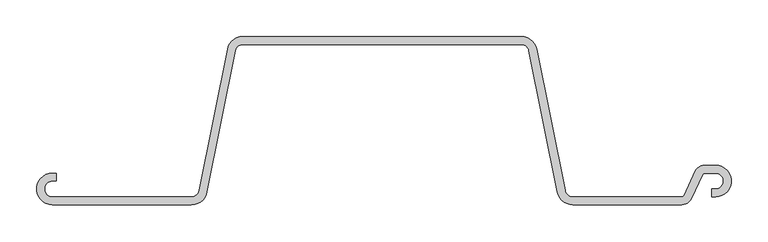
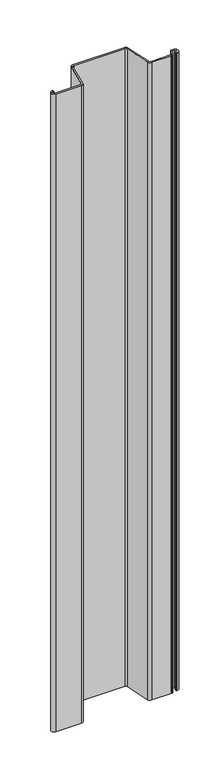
"""IFC4 building model written with IfcOpenShell, lengths in millimetres: proxy geometry, 鋼矢板10H型 : 鋼矢板10H型."""

from ifc_helpers import new_model, si_unit, point, frame, frame_2d, origin, place, context, project, spatial, polyline, circle_curve, trimmed, segment, composite_curve, outline, extrude, source, transform, mapped, element, save


def generic_models_6a52f8d3(model_context):
    return source(origin(), model_context, "Body", "SweptSolid", [
        extrude(outline(composite_curve([segment(trimmed(circle_curve(frame_2d((409.1972607, -101.1142857)), 13.8857143), [point((421.7819917, -106.9826421))], [point((409.1972607, -115.0))], False, "CARTESIAN"), True, "CONTINUOUS"), segment(polyline([(409.1972607, -115.0), (260.2008232, -115.0)]), True, "CONTINUOUS"), segment(trimmed(circle_curve(frame_2d((260.2008232, -93.4)), 21.6), [point((260.2008232, -115.0))], [point((239.0202806, -97.6361085))], False, "CARTESIAN"), True, "CONTINUOUS"), segment(polyline([(239.0202806, -97.6361085), (200.3894481, 95.5180543)]), True, "CONTINUOUS"), segment(trimmed(circle_curve(frame_2d((189.7991768, 93.4)), 10.8), [point((200.3894481, 95.5180543))], [point((189.7991768, 104.2))], True, "CARTESIAN"), True, "CONTINUOUS"), segment(polyline([(189.7991768, 104.2), (-189.7991768, 104.2)]), True, "CONTINUOUS"), segment(trimmed(circle_curve(frame_2d((-189.7991768, 93.4)), 10.8), [point((-189.7991768, 104.2))], [point((-200.3894481, 95.5180543))], True, "CARTESIAN"), True, "CONTINUOUS"), segment(polyline([(-200.3894481, 95.5180543), (-239.0202806, -97.6361085)]), True, "CONTINUOUS"), segment(trimmed(circle_curve(frame_2d((-260.2008232, -93.4)), 21.6), [point((-239.0202806, -97.6361085))], [point((-260.2008232, -115.0))], False, "CARTESIAN"), True, "CONTINUOUS"), segment(polyline([(-260.2008232, -115.0), (-450.0, -115.0)]), True, "CONTINUOUS"), segment(trimmed(circle_curve(frame_2d((-450.0, -93.4)), 21.6), [point((-450.0, -115.0))], [point((-450.0, -71.8))], False, "CARTESIAN"), True, "CONTINUOUS"), segment(polyline([(-450.0, -71.8), (-445.0, -71.8), (-445.0, -82.6), (-450.0, -82.6)]), True, "CONTINUOUS"), segment(trimmed(circle_curve(frame_2d((-450.0, -93.4)), 10.8), [point((-450.0, -82.6))], [point((-450.0, -104.2))], True, "CARTESIAN"), True, "CONTINUOUS"), segment(polyline([(-450.0, -104.2), (-260.2008232, -104.2)]), True, "CONTINUOUS"), segment(trimmed(circle_curve(frame_2d((-260.2008232, -93.4)), 10.8), [point((-260.2008232, -104.2))], [point((-249.6105519, -95.5180543))], True, "CARTESIAN"), True, "CONTINUOUS"), segment(polyline([(-249.6105519, -95.5180543), (-210.9797194, 97.6361085)]), True, "CONTINUOUS"), segment(trimmed(circle_curve(frame_2d((-189.7991768, 93.4)), 21.6), [point((-210.9797194, 97.6361085))], [point((-189.7991768, 115.0))], False, "CARTESIAN"), True, "CONTINUOUS"), segment(polyline([(-189.7991768, 115.0), (189.7991768, 115.0)]), True, "CONTINUOUS"), segment(trimmed(circle_curve(frame_2d((189.7991768, 93.4)), 21.6), [point((189.7991768, 115.0))], [point((210.9797194, 97.6361085))], False, "CARTESIAN"), True, "CONTINUOUS"), segment(polyline([(210.9797194, 97.6361085), (249.6105519, -95.5180543)]), True, "CONTINUOUS"), segment(trimmed(circle_curve(frame_2d((260.2008232, -93.4)), 10.8), [point((249.6105519, -95.5180543))], [point((260.2008232, -104.2))], True, "CARTESIAN"), True, "CONTINUOUS"), segment(polyline([(260.2008232, -104.2), (409.1972607, -104.2)]), True, "CONTINUOUS"), segment(trimmed(circle_curve(frame_2d((409.1972607, -101.1142857)), 3.0857143), [point((409.1972607, -104.2))], [point((411.9938676, -102.4183649))], True, "CARTESIAN"), True, "CONTINUOUS"), segment(polyline([(411.9938676, -102.4183649), (427.569013, -69.0173579)]), True, "CONTINUOUS"), segment(trimmed(circle_curve(frame_2d((440.153744, -74.8857143)), 13.8857143), [point((427.569013, -69.0173579))], [point((440.153744, -61.0))], False, "CARTESIAN"), True, "CONTINUOUS"), segment(polyline([(440.153744, -61.0), (455.0, -61.0)]), True, "CONTINUOUS"), segment(trimmed(circle_curve(frame_2d((455.0, -82.6)), 21.6), [point((455.0, -61.0))], [point((455.0, -104.2))], False, "CARTESIAN"), True, "CONTINUOUS"), segment(polyline([(455.0, -104.2), (450.0, -104.2), (450.0, -93.4), (455.0, -93.4)]), True, "CONTINUOUS"), segment(trimmed(circle_curve(frame_2d((455.0, -82.6)), 10.8), [point((455.0, -93.4))], [point((455.0, -71.8))], True, "CARTESIAN"), True, "CONTINUOUS"), segment(polyline([(455.0, -71.8), (440.153744, -71.8)]), True, "CONTINUOUS"), segment(trimmed(circle_curve(frame_2d((440.153744, -74.8857143)), 3.0857143), [point((440.153744, -71.8))], [point((437.3571371, -73.5816351))], True, "CARTESIAN"), True, "CONTINUOUS"), segment(polyline([(437.3571371, -73.5816351), (421.7819917, -106.9826421)]), True, "CONTINUOUS")], self_intersect=False)), frame((0.0, 0.0, -5000.0), z_axis=(0.0, 0.0, 1.0), x_axis=(1.0, 0.0, 0.0)), (0.0, 0.0, 1.0), 5000.0),
    ])


if __name__ == "__main__":
    model = new_model("IFC4")
    model_context = context("Model", 3, world=origin())
    ifc_project = project(units=[si_unit("LENGTHUNIT", "METRE", prefix="MILLI")], contexts=[model_context])
    site = spatial("IfcSite", under=ifc_project)
    building = spatial("IfcBuilding", under=site)
    placement = place(None, origin())
    generic_models_shape = generic_models_6a52f8d3(model_context)
    element("IfcBuildingElementProxy", 1, Name="鋼矢板10H型 : 鋼矢板10H型", ObjectType="鋼矢板10H型 : 鋼矢板10H型", at=placement, inside=building, context=model_context, shape_type="MappedRepresentation", body=[
        mapped(generic_models_shape, transform((0.0, 0.0, 0.0), x_axis=(1.0, 0.0, 0.0), y_axis=(0.0, 1.0, 0.0), z_axis=(0.0, 0.0, 1.0))),
    ])
    save(model, "model.ifc")
